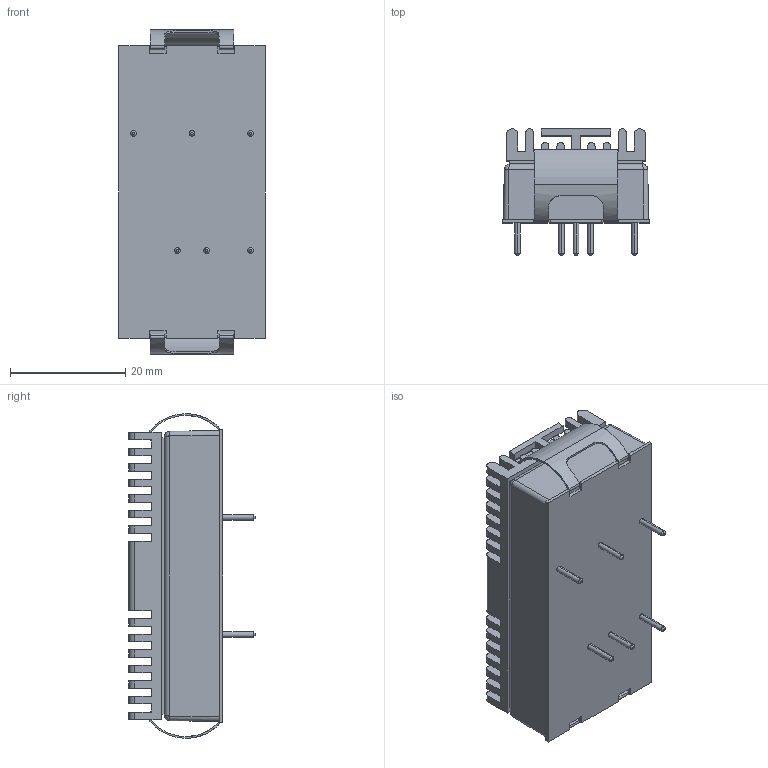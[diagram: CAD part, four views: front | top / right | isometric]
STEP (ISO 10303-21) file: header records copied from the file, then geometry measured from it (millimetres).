
FILE_DESCRIPTION (( 'STEP AP214' ), '1' );
FILE_NAME ('TEN 15-HS.STEP', '2018-10-30T09:37:00', ( 'user' ), ( '' ), 'SwSTEP 2.0', 'SolidWorks 2016', '' );
FILE_SCHEMA (( 'AUTOMOTIVE_DESIGN' ));
Length unit declared in the file: millimetre
Products named in the file (5): Clamp; Heatsink; Heatfilm; Converter; TEN 15-HS
Assembly tree (5 placements, depth 2):
  TEN 15-HS
    Converter
    Heatfilm
    Heatsink
    Clamp  x2
Bounding box: 25.4 x 21.9 x 56.34 mm (x, y, z)
Volume: 17071.5 mm3; surface area: 13376.7 mm2
Topology: 5 solids, 5 shells, 835 faces, 2160 edges, 1424 vertices
Faces by surface type: plane 655, cylinder 164, cone 12, bspline 4
Entity records: 30046 total; most frequent: CARTESIAN_POINT 4511, ORIENTED_EDGE 4140, DIRECTION 3976, EDGE_CURVE 2070, LINE 1750, VECTOR 1750, VERTEX_POINT 1368, AXIS2_PLACEMENT_3D 1113
